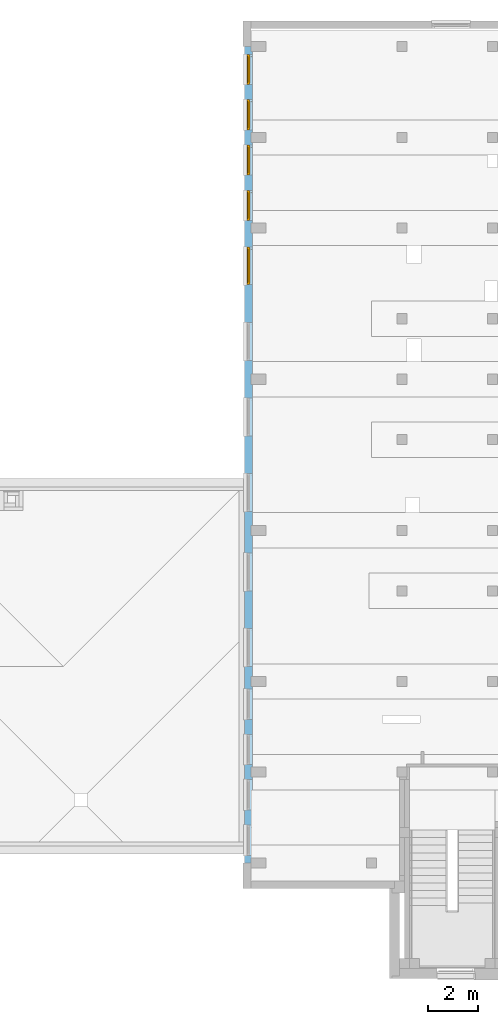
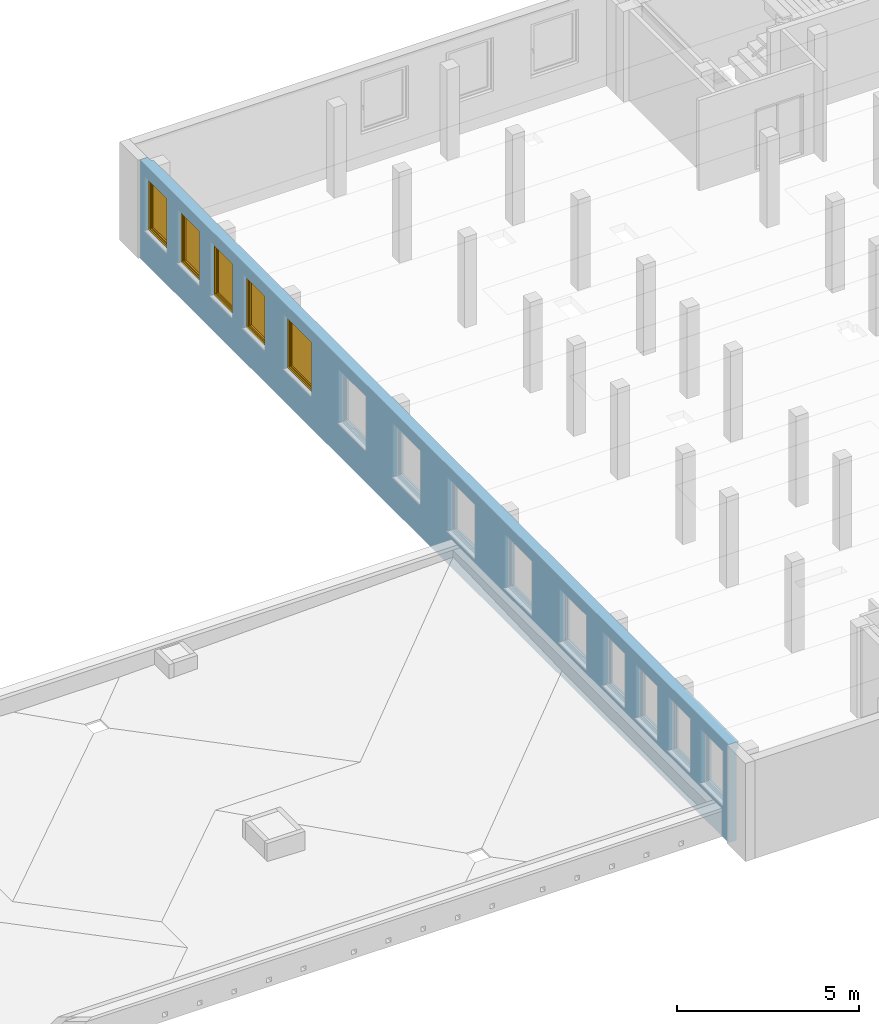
# One storey, part 10 of 27: 5 windows, 14 openings, plus 1 element that does not belong to this part.
"""IFC4 building model written with IfcOpenShell, lengths in metres."""

from ifc_helpers import new_model, entity, si_unit, converted_unit, derived_unit, frame, origin, origin_with_axes, place, context, subcontext, project, spatial, polyline, outline, extrude, clip, bounded_halfspace, closed_shell, open_shell, surface_model, source, transform, mapped, material, layer, layer_set, layer_usage, element, fill, save


model = new_model("IFC4")

# Units and contexts
model_context = context("Model", 3, precision=1e-05, world=origin())
body_context = subcontext(model_context, "Body", "Model", "MODEL_VIEW")
ifc_project = project(units=[si_unit("LENGTHUNIT", "METRE"), si_unit("AREAUNIT", "SQUARE_METRE"), si_unit("VOLUMEUNIT", "CUBIC_METRE"), si_unit("MASSUNIT", "GRAM", prefix="KILO"), converted_unit("PLANEANGLEUNIT", "DEGREE", entity("IfcPlaneAngleMeasure", 0.0174532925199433), si_unit("PLANEANGLEUNIT", "RADIAN"), dimensions=[0, 0, 0, 0, 0, 0, 0]), derived_unit("THERMALTRANSMITTANCEUNIT", [(si_unit("POWERUNIT", "WATT"), 1), (si_unit("THERMODYNAMICTEMPERATUREUNIT", "KELVIN"), -1), (si_unit("LENGTHUNIT", "METRE"), -2)]), derived_unit("VOLUMETRICFLOWRATEUNIT", [(si_unit("LENGTHUNIT", "METRE"), 3), (converted_unit("TIMEUNIT", "hour", entity("IfcTimeMeasure", 3600.0), si_unit("TIMEUNIT", "SECOND"), dimensions=[0, 0, 1, 0, 0, 0, 0]), -1), (si_unit("LENGTHUNIT", "METRE"), -1)])], contexts=[model_context])

# Site, building, storey
site_placement = place(None, origin())
site = spatial("IfcSite", under=ifc_project, at=site_placement, Name="3. ASŘ", CompositionType="ELEMENT")
building_placement = place(site_placement, origin())
building = spatial("IfcBuilding", under=site, at=building_placement, Name="Pavilon C", CompositionType="ELEMENT")
storey_placement = place(building_placement, frame((0.0, 0.0, 7.2)))
storey = spatial("IfcBuildingStorey", under=building, at=storey_placement, Name="Půdorys 3.NP", CompositionType="ELEMENT", Elevation=7.2)

# Wall, openings, windows
ifc_material = material(Name="ZELEZOBETONOVÁ KCE")
ifc_layer = layer(ifc_material, 0.32)
ifc_layer_set = layer_set([ifc_layer])
ifc_layer_usage = layer_usage(ifc_layer_set, "AXIS2", "POSITIVE", 0.0)
wall_placement = place(storey_placement, frame((24.5, 32.4, -0.1), z_axis=(0.0, 0.0, 1.0), x_axis=(-2.24566593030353e-16, -1.0, 0.0)))
wall = element("IfcWall", 1, at=wall_placement, inside=storey, material=ifc_layer_usage, Name="ZELEZOBETONOVÁ KCE", context=body_context, shape_type="Clipping", body=[
    clip(clip(clip(clip(clip(clip(clip(extrude(outline(polyline([(-32.4, 0.0), (-7.18613097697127e-17, -1.61376495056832e-32), (-7.18613097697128e-17, 0.32), (-32.2, 0.32), (-32.2, 0.25), (-32.4, 0.25), (-32.4, 0.0)])), frame((32.4, 0.0, 0.0), z_axis=(0.0, 0.0, 1.0), x_axis=(1.0, 0.0, 0.0)), (0.0, 0.0, 1.0), 3.3), bounded_halfspace(frame((7.2, 0.285000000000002, 3.05), z_axis=(0.0, 0.0, 1.0), x_axis=(2.24566593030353e-16, -1.0, 0.0)), True, origin_with_axes(), polyline([(7.0, 0.320000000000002), (7.0, 0.250000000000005), (7.4, 0.250000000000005), (7.4, 0.320000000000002), (7.0, 0.320000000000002)]))), bounded_halfspace(frame((3.6, 0.285000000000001, 3.05), z_axis=(0.0, 0.0, 1.0), x_axis=(2.24566593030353e-16, -1.0, 0.0)), True, origin_with_axes(), polyline([(3.4, 0.320000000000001), (3.4, 0.250000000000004), (3.8, 0.250000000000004), (3.8, 0.320000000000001), (3.4, 0.320000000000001)]))), bounded_halfspace(frame((19.2, 0.285000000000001, 3.05), z_axis=(0.0, 0.0, 1.0), x_axis=(2.24566593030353e-16, -1.0, 0.0)), True, origin_with_axes(), polyline([(19.0, 0.320000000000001), (19.0, 0.249999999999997), (19.4, 0.249999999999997), (19.4, 0.320000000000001), (19.0, 0.320000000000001)]))), bounded_halfspace(frame((25.2, 0.284999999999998, 3.05), z_axis=(0.0, 0.0, 1.0), x_axis=(2.24566593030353e-16, -1.0, 0.0)), True, origin_with_axes(), polyline([(25.0, 0.319999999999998), (25.0, 0.249999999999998), (25.4, 0.249999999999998), (25.4, 0.319999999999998), (25.0, 0.319999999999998)]))), bounded_halfspace(frame((28.8, 0.284999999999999, 3.05), z_axis=(0.0, 0.0, 1.0), x_axis=(2.24566593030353e-16, -1.0, 0.0)), True, origin_with_axes(), polyline([(28.6, 0.319999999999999), (28.6, 0.249999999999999), (29.0, 0.249999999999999), (29.0, 0.319999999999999), (28.6, 0.319999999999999)]))), bounded_halfspace(frame((32.3, 0.285, 3.05), z_axis=(0.0, 0.0, 1.0), x_axis=(2.24566593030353e-16, -1.0, 0.0)), True, origin_with_axes(), polyline([(32.2, 0.32), (32.2, 0.25), (32.4, 0.25), (32.4, 0.32), (32.2, 0.32)]))), bounded_halfspace(frame((13.2, 0.285000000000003, 3.05), z_axis=(0.0, 0.0, 1.0), x_axis=(2.24566593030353e-16, -1.0, 0.0)), True, origin_with_axes(), polyline([(13.0, 0.319999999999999), (13.0, 0.250000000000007), (13.4, 0.250000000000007), (13.4, 0.319999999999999), (13.0, 0.319999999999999)]))),
])
opening_1_placement = place(wall_placement, frame((25.5, -1.54950949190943e-15, 1.1), z_axis=(0.0, 1.0, 0.0), x_axis=(0.0, 0.0, 1.0)))
element("IfcOpeningElement", 2, at=opening_1_placement, cuts=wall, Name="Okenní otvor", ObjectType="Opening", context=body_context, shape_type="SweptSolid", body=[
    extrude(outline(polyline([(0.0, 1.2), (1.8, 1.2), (1.8, 0.0), (0.0, 0.0), (0.0, 1.2)])), origin_with_axes(), (0.0, 0.0, 1.0), 0.32),
])
opening_2_placement = place(wall_placement, frame((27.3, -1.1452896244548e-15, 1.1), z_axis=(0.0, 1.0, 0.0), x_axis=(0.0, 0.0, 1.0)))
element("IfcOpeningElement", 3, at=opening_2_placement, cuts=wall, Name="Okenní otvor", ObjectType="Opening", context=body_context, shape_type="SweptSolid", body=[
    extrude(outline(polyline([(0.0, 1.2), (1.8, 1.2), (1.8, 0.0), (0.0, 0.0), (0.0, 1.2)])), origin_with_axes(), (0.0, 0.0, 1.0), 0.32),
])
opening_3_placement = place(wall_placement, frame((29.1, -7.41069757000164e-16, 1.1), z_axis=(0.0, 1.0, 0.0), x_axis=(0.0, 0.0, 1.0)))
element("IfcOpeningElement", 4, at=opening_3_placement, cuts=wall, Name="Okenní otvor", ObjectType="Opening", context=body_context, shape_type="SweptSolid", body=[
    extrude(outline(polyline([(0.0, 1.2), (1.8, 1.2), (1.8, 0.0), (0.0, 0.0), (0.0, 1.2)])), origin_with_axes(), (0.0, 0.0, 1.0), 0.32),
])
opening_4_placement = place(wall_placement, frame((30.9, -3.36849889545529e-16, 1.1), z_axis=(0.0, 1.0, 0.0), x_axis=(0.0, 0.0, 1.0)))
element("IfcOpeningElement", 5, at=opening_4_placement, cuts=wall, Name="Okenní otvor", ObjectType="Opening", context=body_context, shape_type="SweptSolid", body=[
    extrude(outline(polyline([(0.0, 1.2), (1.8, 1.2), (1.8, 0.0), (0.0, 0.0), (0.0, 1.2)])), origin_with_axes(), (0.0, 0.0, 1.0), 0.32),
])
opening_5_placement = place(wall_placement, frame((13.95, -5.05274834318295e-16, 1.1), z_axis=(0.0, 1.0, 0.0), x_axis=(0.0, 0.0, 1.0)))
element("IfcOpeningElement", 6, at=opening_5_placement, cuts=wall, Name="Okenní otvor", ObjectType="Opening", context=body_context, shape_type="SweptSolid", body=[
    extrude(outline(polyline([(0.0, 1.5), (1.8, 1.5), (1.8, 0.0), (0.0, 0.0), (0.0, 1.5)])), origin_with_axes(), (0.0, 0.0, 1.0), 0.32),
])
opening_6_placement = place(wall_placement, frame((10.95, -1.17897461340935e-15, 1.1), z_axis=(0.0, 1.0, 0.0), x_axis=(0.0, 0.0, 1.0)))
element("IfcOpeningElement", 7, at=opening_6_placement, cuts=wall, Name="Okenní otvor", ObjectType="Opening", context=body_context, shape_type="SweptSolid", body=[
    extrude(outline(polyline([(0.0, 1.5), (1.8, 1.5), (1.8, 0.0), (0.0, 0.0), (0.0, 1.5)])), origin_with_axes(), (0.0, 0.0, 1.0), 0.32),
])
opening_7_placement = place(wall_placement, frame((16.95, 1.68424944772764e-16, 1.1), z_axis=(0.0, 1.0, 0.0), x_axis=(0.0, 0.0, 1.0)))
element("IfcOpeningElement", 8, at=opening_7_placement, cuts=wall, Name="Okenní otvor", ObjectType="Opening", context=body_context, shape_type="SweptSolid", body=[
    extrude(outline(polyline([(0.0, 1.5), (1.8, 1.5), (1.8, 0.0), (0.0, 0.0), (0.0, 1.5)])), origin_with_axes(), (0.0, 0.0, 1.0), 0.32),
])
opening_8_placement = place(wall_placement, frame((20.1, 8.75809712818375e-16, 1.1), z_axis=(0.0, 1.0, 0.0), x_axis=(0.0, 0.0, 1.0)))
element("IfcOpeningElement", 9, at=opening_8_placement, cuts=wall, Name="Okenní otvor", ObjectType="Opening", context=body_context, shape_type="SweptSolid", body=[
    extrude(outline(polyline([(0.0, 1.5), (1.8, 1.5), (1.8, 0.0), (0.0, 0.0), (0.0, 1.5)])), origin_with_axes(), (0.0, 0.0, 1.0), 0.32),
])
opening_9_placement = place(wall_placement, frame((23.1, -2.08846931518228e-15, 1.1), z_axis=(0.0, 1.0, 0.0), x_axis=(0.0, 0.0, 1.0)))
element("IfcOpeningElement", 10, at=opening_9_placement, cuts=wall, Name="Okenní otvor", ObjectType="Opening", context=body_context, shape_type="SweptSolid", body=[
    extrude(outline(polyline([(0.0, 1.5), (1.8, 1.5), (1.8, 0.0), (0.0, 0.0), (0.0, 1.5)])), origin_with_axes(), (0.0, 0.0, 1.0), 0.320000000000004),
])
opening_10_placement = place(wall_placement, frame((7.95, -1.85267439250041e-15, 1.1), z_axis=(0.0, 1.0, 0.0), x_axis=(0.0, 0.0, 1.0)))
opening_10 = element("IfcOpeningElement", 11, at=opening_10_placement, cuts=wall, Name="Okenní otvor", ObjectType="Opening", context=body_context, shape_type="SweptSolid", body=[
    extrude(outline(polyline([(0.0, 1.5), (1.8, 1.5), (1.8, 0.0), (0.0, 0.0), (0.0, 1.5)])), origin_with_axes(), (0.0, 0.0, 1.0), 0.320000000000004),
])
opening_11_placement = place(wall_placement, frame((2.10000000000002, 4.71589845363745e-16, 1.1), z_axis=(0.0, 1.0, 0.0), x_axis=(0.0, 0.0, 1.0)))
opening_11 = element("IfcOpeningElement", 12, at=opening_11_placement, cuts=wall, Name="Okenní otvor", ObjectType="Opening", context=body_context, shape_type="SweptSolid", body=[
    extrude(outline(polyline([(0.0, 1.2), (1.8, 1.2), (1.8, 0.0), (0.0, 0.0), (0.0, 1.2)])), origin_with_axes(), (0.0, 0.0, 1.0), 0.32),
])
opening_12_placement = place(wall_placement, frame((3.90000000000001, 8.75809712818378e-16, 1.1), z_axis=(0.0, 1.0, 0.0), x_axis=(0.0, 0.0, 1.0)))
opening_12 = element("IfcOpeningElement", 13, at=opening_12_placement, cuts=wall, Name="Okenní otvor", ObjectType="Opening", context=body_context, shape_type="SweptSolid", body=[
    extrude(outline(polyline([(0.0, 1.2), (1.8, 1.2), (1.8, 0.0), (0.0, 0.0), (0.0, 1.2)])), origin_with_axes(), (0.0, 0.0, 1.0), 0.32),
])
opening_13_placement = place(wall_placement, frame((5.7, 1.28002958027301e-15, 1.1), z_axis=(0.0, 1.0, 0.0), x_axis=(0.0, 0.0, 1.0)))
opening_13 = element("IfcOpeningElement", 14, at=opening_13_placement, cuts=wall, Name="Okenní otvor", ObjectType="Opening", context=body_context, shape_type="SweptSolid", body=[
    extrude(outline(polyline([(0.0, 1.2), (1.8, 1.2), (1.8, 0.0), (0.0, 0.0), (0.0, 1.2)])), origin_with_axes(), (0.0, 0.0, 1.0), 0.32),
])
opening_14_placement = place(wall_placement, frame((0.300000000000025, 6.73699779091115e-17, 1.1), z_axis=(-1.77635683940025e-16, 1.0, 0.0), x_axis=(0.0, 0.0, 1.0)))
opening_14 = element("IfcOpeningElement", 15, at=opening_14_placement, cuts=wall, Name="Okenní otvor", ObjectType="Opening", context=body_context, shape_type="SweptSolid", body=[
    extrude(outline(polyline([(0.0, 1.2), (1.8, 1.2), (1.8, 0.0), (0.0, 0.0), (0.0, 1.2)])), origin_with_axes(), (0.0, 0.0, 1.0), 0.32),
])
shared_shape_1 = source(origin_with_axes(), body_context, "Body", "SurfaceModel", [
    surface_model("IfcShellBasedSurfaceModel", [(0.0, 0.182, 1.8), (0.0, 0.182, -5.63337527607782e-18), (0.08, 0.182, -5.63337527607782e-18), (0.08, 0.182, 1.8), (0.0, 0.0899999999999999, 5.63337527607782e-18), (0.0, 0.0900000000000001, 1.8), (0.08, 0.0900000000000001, 1.8), (0.08, 0.0899999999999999, 5.63337527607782e-18)], [closed_shell([[[0, 1, 2, 3]], [[4, 5, 6, 7]], [[1, 0, 5, 4]], [[2, 1, 4, 7]], [[3, 2, 7, 6]], [[0, 3, 6, 5]]], orient=[[False], [False], [False], [False], [False], [False]])]),
    surface_model("IfcShellBasedSurfaceModel", [(1.12, 0.182, 1.8), (1.12, 0.182, -5.63337527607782e-18), (1.2, 0.182, -5.63337527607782e-18), (1.2, 0.182, 1.8), (1.12, 0.0899999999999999, 5.63337527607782e-18), (1.12, 0.0900000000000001, 1.8), (1.2, 0.0900000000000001, 1.8), (1.2, 0.0899999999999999, 5.63337527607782e-18)], [closed_shell([[[0, 1, 2, 3]], [[4, 5, 6, 7]], [[1, 0, 5, 4]], [[2, 1, 4, 7]], [[3, 2, 7, 6]], [[0, 3, 6, 5]]], orient=[[False], [False], [False], [False], [False], [False]])]),
    surface_model("IfcShellBasedSurfaceModel", [(0.08, 0.182, 0.08), (0.08, 0.182, -5.63337527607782e-18), (1.12, 0.182, -5.63337527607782e-18), (1.12, 0.182, 0.08), (0.08, 0.0899999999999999, 5.63337527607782e-18), (0.08, 0.0899999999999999, 0.08), (1.12, 0.0899999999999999, 0.08), (1.12, 0.0899999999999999, 5.63337527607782e-18)], [closed_shell([[[0, 1, 2, 3]], [[4, 5, 6, 7]], [[1, 0, 5, 4]], [[2, 1, 4, 7]], [[3, 2, 7, 6]], [[0, 3, 6, 5]]], orient=[[False], [False], [False], [False], [False], [False]])]),
    surface_model("IfcShellBasedSurfaceModel", [(0.08, 0.182, 1.8), (0.08, 0.182, 1.72), (1.12, 0.182, 1.72), (1.12, 0.182, 1.8), (0.08, 0.0900000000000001, 1.72), (0.08, 0.0900000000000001, 1.8), (1.12, 0.0900000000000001, 1.8), (1.12, 0.0900000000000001, 1.72)], [closed_shell([[[0, 1, 2, 3]], [[4, 5, 6, 7]], [[1, 0, 5, 4]], [[2, 1, 4, 7]], [[3, 2, 7, 6]], [[0, 3, 6, 5]]], orient=[[False], [False], [False], [False], [False], [False]])]),
    surface_model("IfcShellBasedSurfaceModel", [(0.05, 0.145, 1.75), (0.05, 0.145, 0.05), (0.13, 0.145, 0.05), (0.13, 0.145, 1.75), (0.05, 0.0599999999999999, 0.05), (0.05, 0.0600000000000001, 1.75), (0.13, 0.0600000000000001, 1.75), (0.13, 0.0599999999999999, 0.05)], [closed_shell([[[0, 1, 2, 3]], [[4, 5, 6, 7]], [[1, 0, 5, 4]], [[2, 1, 4, 7]], [[3, 2, 7, 6]], [[0, 3, 6, 5]]], orient=[[False], [False], [False], [False], [False], [False]])]),
    surface_model("IfcShellBasedSurfaceModel", [(1.07, 0.145, 1.75), (1.07, 0.145, 0.05), (1.15, 0.145, 0.05), (1.15, 0.145, 1.75), (1.07, 0.0599999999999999, 0.05), (1.07, 0.0600000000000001, 1.75), (1.15, 0.0600000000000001, 1.75), (1.15, 0.0599999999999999, 0.05)], [closed_shell([[[0, 1, 2, 3]], [[4, 5, 6, 7]], [[1, 0, 5, 4]], [[2, 1, 4, 7]], [[3, 2, 7, 6]], [[0, 3, 6, 5]]], orient=[[False], [False], [False], [False], [False], [False]])]),
    surface_model("IfcShellBasedSurfaceModel", [(0.13, 0.145, 0.13), (0.13, 0.145, 0.05), (1.07, 0.145, 0.05), (1.07, 0.145, 0.13), (0.13, 0.0599999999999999, 0.05), (0.13, 0.0599999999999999, 0.13), (1.07, 0.0599999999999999, 0.13), (1.07, 0.0599999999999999, 0.05)], [closed_shell([[[0, 1, 2, 3]], [[4, 5, 6, 7]], [[1, 0, 5, 4]], [[2, 1, 4, 7]], [[3, 2, 7, 6]], [[0, 3, 6, 5]]], orient=[[False], [False], [False], [False], [False], [False]])]),
    surface_model("IfcShellBasedSurfaceModel", [(0.13, 0.145, 1.75), (0.13, 0.145, 1.67), (1.07, 0.145, 1.67), (1.07, 0.145, 1.75), (0.13, 0.0600000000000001, 1.67), (0.13, 0.0600000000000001, 1.75), (1.07, 0.0600000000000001, 1.75), (1.07, 0.0600000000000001, 1.67)], [closed_shell([[[0, 1, 2, 3]], [[4, 5, 6, 7]], [[1, 0, 5, 4]], [[2, 1, 4, 7]], [[3, 2, 7, 6]], [[0, 3, 6, 5]]], orient=[[False], [False], [False], [False], [False], [False]])]),
    surface_model("IfcShellBasedSurfaceModel", [(1.0975, 0.06, 0.92), (1.0975, 0.06, 0.88), (1.1225, 0.06, 0.88), (1.1225, 0.06, 0.92), (1.0975, 0.05, 0.88), (1.0975, 0.05, 0.92), (1.1225, 0.05, 0.92), (1.1225, 0.05, 0.88)], [closed_shell([[[0, 1, 2, 3]], [[4, 5, 6, 7]], [[1, 0, 5, 4]], [[2, 1, 4, 7]], [[3, 2, 7, 6]], [[0, 3, 6, 5]]], orient=[[False], [False], [False], [False], [False], [False]])]),
    surface_model("IfcShellBasedSurfaceModel", [(1.12, 0.05, 0.9), (1.11866025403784, 0.05, 0.905), (1.115, 0.05, 0.908660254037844), (1.11, 0.05, 0.91), (1.105, 0.05, 0.908660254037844), (1.10133974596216, 0.05, 0.905), (1.1, 0.05, 0.9), (1.10133974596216, 0.05, 0.895), (1.105, 0.05, 0.891339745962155), (1.11, 0.05, 0.89), (1.115, 0.05, 0.891339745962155), (1.11866025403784, 0.05, 0.895), (1.12, 0.01, 0.9), (1.11866025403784, 0.00500000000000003, 0.905), (1.115, 0.00133974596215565, 0.908660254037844), (1.11, 2.8421709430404e-17, 0.91), (1.105, 0.00133974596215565, 0.908660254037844), (1.10133974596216, 0.00500000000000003, 0.905), (1.1, 0.01, 0.9), (1.10133974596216, 0.015, 0.895), (1.105, 0.0186602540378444, 0.891339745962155), (1.11, 0.02, 0.89), (1.115, 0.0186602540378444, 0.891339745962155), (1.11866025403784, 0.015, 0.895), (1.12, 0.01, 0.785), (1.11866025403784, 0.005, 0.785), (1.115, 0.00133974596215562, 0.785), (1.11, 0.0, 0.785), (1.105, 0.00133974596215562, 0.785), (1.10133974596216, 0.005, 0.785), (1.1, 0.01, 0.785), (1.10133974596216, 0.015, 0.785), (1.105, 0.0186602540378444, 0.785), (1.11, 0.02, 0.785), (1.115, 0.0186602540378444, 0.785), (1.11866025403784, 0.015, 0.785)], [open_shell([[[0, 1, 2, 3, 4, 5, 6, 7, 8, 9, 10, 11]], [[0, 12, 13, 1]], [[1, 13, 14, 2]], [[2, 14, 15, 3]], [[3, 15, 16, 4]], [[4, 16, 17, 5]], [[5, 17, 18, 6]], [[6, 18, 19, 7]], [[7, 19, 20, 8]], [[8, 20, 21, 9]], [[9, 21, 22, 10]], [[10, 22, 23, 11]], [[11, 23, 12, 0]], [[12, 24, 25, 13]], [[13, 25, 26, 14]], [[14, 26, 27, 15]], [[15, 27, 28, 16]], [[16, 28, 29, 17]], [[17, 29, 30, 18]], [[18, 30, 31, 19]], [[19, 31, 32, 20]], [[20, 32, 33, 21]], [[21, 33, 34, 22]], [[22, 34, 35, 23]], [[23, 35, 24, 12]]], orient=[[False], [False], [False], [False], [False], [False], [False], [False], [False], [False], [False], [False], [False], [False], [False], [False], [False], [False], [False], [False], [False], [False], [False], [False], [False]])]),
    surface_model("IfcShellBasedSurfaceModel", [(0.13, 0.1025, 0.13), (1.07, 0.1025, 0.13), (1.07, 0.1025, 1.67), (0.13, 0.1025, 1.67)], [open_shell([[[0, 1, 2, 3]]], orient=[[False]])]),
])
window_1_placement = place(opening_11_placement, frame((0.0, 1.20000000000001, 0.281999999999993), z_axis=(1.0, 0.0, 0.0), x_axis=(0.0, -1.0, -1.02101913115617e-16)))
window_1 = element("IfcWindow", 16, at=window_1_placement, inside=storey, Name="O06", OverallHeight=1.8, OverallWidth=1.2, PartitioningType="USERDEFINED", PredefinedType="WINDOW", context=body_context, shape_type="MappedRepresentation", body=[
    mapped(shared_shape_1, transform((0.0, 0.0, 0.0), x_axis=(1.0, 0.0, 0.0), y_axis=(0.0, 1.0, 0.0), z_axis=(0.0, 0.0, 1.0), scale=1.0)),
])
fill(opening_11, window_1)
window_2_placement = place(opening_12_placement, frame((0.0, 1.20000000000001, 0.281999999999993), z_axis=(1.0, 0.0, 0.0), x_axis=(0.0, -1.0, -1.02101913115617e-16)))
window_2 = element("IfcWindow", 17, at=window_2_placement, inside=storey, Name="O06", OverallHeight=1.8, OverallWidth=1.2, PartitioningType="USERDEFINED", PredefinedType="WINDOW", context=body_context, shape_type="MappedRepresentation", body=[
    mapped(shared_shape_1, transform((0.0, 0.0, 0.0), x_axis=(1.0, 0.0, 0.0), y_axis=(0.0, 1.0, 0.0), z_axis=(0.0, 0.0, 1.0), scale=1.0)),
])
fill(opening_12, window_2)
window_3_placement = place(opening_13_placement, frame((0.0, 1.20000000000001, 0.281999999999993), z_axis=(1.0, 0.0, 0.0), x_axis=(0.0, -1.0, -1.02101913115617e-16)))
window_3 = element("IfcWindow", 18, at=window_3_placement, inside=storey, Name="O06", OverallHeight=1.8, OverallWidth=1.2, PartitioningType="USERDEFINED", PredefinedType="WINDOW", context=body_context, shape_type="MappedRepresentation", body=[
    mapped(shared_shape_1, transform((0.0, 0.0, 0.0), x_axis=(1.0, 0.0, 0.0), y_axis=(0.0, 1.0, 0.0), z_axis=(0.0, 0.0, 1.0), scale=1.0)),
])
fill(opening_13, window_3)
window_4_placement = place(opening_14_placement, frame((0.0, 1.20000000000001, 0.281999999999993), z_axis=(1.0, 0.0, 0.0), x_axis=(0.0, -1.0, 7.55337708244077e-17)))
window_4 = element("IfcWindow", 19, at=window_4_placement, inside=storey, Name="O06", OverallHeight=1.8, OverallWidth=1.2, PartitioningType="USERDEFINED", PredefinedType="WINDOW", context=body_context, shape_type="MappedRepresentation", body=[
    mapped(shared_shape_1, transform((0.0, 0.0, 0.0), x_axis=(1.0, 0.0, 0.0), y_axis=(0.0, 1.0, 0.0), z_axis=(0.0, 0.0, 1.0), scale=1.0)),
])
fill(opening_14, window_4)
shared_shape_2 = source(origin_with_axes(), body_context, "Body", "SurfaceModel", [
    surface_model("IfcShellBasedSurfaceModel", [(0.0, 0.182, 1.8), (0.0, 0.182, -5.63337527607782e-18), (0.08, 0.182, -5.63337527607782e-18), (0.08, 0.182, 1.8), (0.0, 0.0899999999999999, 5.63337527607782e-18), (0.0, 0.0900000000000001, 1.8), (0.08, 0.0900000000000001, 1.8), (0.08, 0.0899999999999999, 5.63337527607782e-18)], [closed_shell([[[0, 1, 2, 3]], [[4, 5, 6, 7]], [[1, 0, 5, 4]], [[2, 1, 4, 7]], [[3, 2, 7, 6]], [[0, 3, 6, 5]]], orient=[[False], [False], [False], [False], [False], [False]])]),
    surface_model("IfcShellBasedSurfaceModel", [(1.42, 0.182, 1.8), (1.42, 0.182, -5.63337527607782e-18), (1.5, 0.182, -5.63337527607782e-18), (1.5, 0.182, 1.8), (1.42, 0.0899999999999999, 5.63337527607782e-18), (1.42, 0.0900000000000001, 1.8), (1.5, 0.0900000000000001, 1.8), (1.5, 0.0899999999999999, 5.63337527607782e-18)], [closed_shell([[[0, 1, 2, 3]], [[4, 5, 6, 7]], [[1, 0, 5, 4]], [[2, 1, 4, 7]], [[3, 2, 7, 6]], [[0, 3, 6, 5]]], orient=[[False], [False], [False], [False], [False], [False]])]),
    surface_model("IfcShellBasedSurfaceModel", [(0.08, 0.182, 0.08), (0.08, 0.182, -5.63337527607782e-18), (1.42, 0.182, -5.63337527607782e-18), (1.42, 0.182, 0.08), (0.08, 0.0899999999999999, 5.63337527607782e-18), (0.08, 0.0899999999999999, 0.08), (1.42, 0.0899999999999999, 0.08), (1.42, 0.0899999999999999, 5.63337527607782e-18)], [closed_shell([[[0, 1, 2, 3]], [[4, 5, 6, 7]], [[1, 0, 5, 4]], [[2, 1, 4, 7]], [[3, 2, 7, 6]], [[0, 3, 6, 5]]], orient=[[False], [False], [False], [False], [False], [False]])]),
    surface_model("IfcShellBasedSurfaceModel", [(0.08, 0.182, 1.8), (0.08, 0.182, 1.72), (1.42, 0.182, 1.72), (1.42, 0.182, 1.8), (0.08, 0.0900000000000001, 1.72), (0.08, 0.0900000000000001, 1.8), (1.42, 0.0900000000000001, 1.8), (1.42, 0.0900000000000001, 1.72)], [closed_shell([[[0, 1, 2, 3]], [[4, 5, 6, 7]], [[1, 0, 5, 4]], [[2, 1, 4, 7]], [[3, 2, 7, 6]], [[0, 3, 6, 5]]], orient=[[False], [False], [False], [False], [False], [False]])]),
    surface_model("IfcShellBasedSurfaceModel", [(0.05, 0.145, 1.75), (0.05, 0.145, 0.05), (0.13, 0.145, 0.05), (0.13, 0.145, 1.75), (0.05, 0.0599999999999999, 0.05), (0.05, 0.0600000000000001, 1.75), (0.13, 0.0600000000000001, 1.75), (0.13, 0.0599999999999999, 0.05)], [closed_shell([[[0, 1, 2, 3]], [[4, 5, 6, 7]], [[1, 0, 5, 4]], [[2, 1, 4, 7]], [[3, 2, 7, 6]], [[0, 3, 6, 5]]], orient=[[False], [False], [False], [False], [False], [False]])]),
    surface_model("IfcShellBasedSurfaceModel", [(1.37, 0.145, 1.75), (1.37, 0.145, 0.05), (1.45, 0.145, 0.05), (1.45, 0.145, 1.75), (1.37, 0.0599999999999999, 0.05), (1.37, 0.0600000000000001, 1.75), (1.45, 0.0600000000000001, 1.75), (1.45, 0.0599999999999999, 0.05)], [closed_shell([[[0, 1, 2, 3]], [[4, 5, 6, 7]], [[1, 0, 5, 4]], [[2, 1, 4, 7]], [[3, 2, 7, 6]], [[0, 3, 6, 5]]], orient=[[False], [False], [False], [False], [False], [False]])]),
    surface_model("IfcShellBasedSurfaceModel", [(0.13, 0.145, 0.13), (0.13, 0.145, 0.05), (1.37, 0.145, 0.05), (1.37, 0.145, 0.13), (0.13, 0.0599999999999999, 0.05), (0.13, 0.0599999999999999, 0.13), (1.37, 0.0599999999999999, 0.13), (1.37, 0.0599999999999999, 0.05)], [closed_shell([[[0, 1, 2, 3]], [[4, 5, 6, 7]], [[1, 0, 5, 4]], [[2, 1, 4, 7]], [[3, 2, 7, 6]], [[0, 3, 6, 5]]], orient=[[False], [False], [False], [False], [False], [False]])]),
    surface_model("IfcShellBasedSurfaceModel", [(0.13, 0.145, 1.75), (0.13, 0.145, 1.67), (1.37, 0.145, 1.67), (1.37, 0.145, 1.75), (0.13, 0.0600000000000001, 1.67), (0.13, 0.0600000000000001, 1.75), (1.37, 0.0600000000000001, 1.75), (1.37, 0.0600000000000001, 1.67)], [closed_shell([[[0, 1, 2, 3]], [[4, 5, 6, 7]], [[1, 0, 5, 4]], [[2, 1, 4, 7]], [[3, 2, 7, 6]], [[0, 3, 6, 5]]], orient=[[False], [False], [False], [False], [False], [False]])]),
    surface_model("IfcShellBasedSurfaceModel", [(1.3975, 0.06, 0.92), (1.3975, 0.06, 0.88), (1.4225, 0.06, 0.88), (1.4225, 0.06, 0.92), (1.3975, 0.05, 0.88), (1.3975, 0.05, 0.92), (1.4225, 0.05, 0.92), (1.4225, 0.05, 0.88)], [closed_shell([[[0, 1, 2, 3]], [[4, 5, 6, 7]], [[1, 0, 5, 4]], [[2, 1, 4, 7]], [[3, 2, 7, 6]], [[0, 3, 6, 5]]], orient=[[False], [False], [False], [False], [False], [False]])]),
    surface_model("IfcShellBasedSurfaceModel", [(1.42, 0.05, 0.9), (1.41866025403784, 0.05, 0.905), (1.415, 0.05, 0.908660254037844), (1.41, 0.05, 0.91), (1.405, 0.05, 0.908660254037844), (1.40133974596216, 0.05, 0.905), (1.4, 0.05, 0.9), (1.40133974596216, 0.05, 0.895), (1.405, 0.05, 0.891339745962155), (1.41, 0.05, 0.89), (1.415, 0.05, 0.891339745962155), (1.41866025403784, 0.05, 0.895), (1.42, 0.01, 0.9), (1.41866025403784, 0.00500000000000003, 0.905), (1.415, 0.00133974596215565, 0.908660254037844), (1.41, 2.8421709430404e-17, 0.91), (1.405, 0.00133974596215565, 0.908660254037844), (1.40133974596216, 0.00500000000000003, 0.905), (1.4, 0.01, 0.9), (1.40133974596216, 0.015, 0.895), (1.405, 0.0186602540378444, 0.891339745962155), (1.41, 0.02, 0.89), (1.415, 0.0186602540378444, 0.891339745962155), (1.41866025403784, 0.015, 0.895), (1.42, 0.01, 0.785), (1.41866025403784, 0.005, 0.785), (1.415, 0.00133974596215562, 0.785), (1.41, 0.0, 0.785), (1.405, 0.00133974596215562, 0.785), (1.40133974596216, 0.005, 0.785), (1.4, 0.01, 0.785), (1.40133974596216, 0.015, 0.785), (1.405, 0.0186602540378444, 0.785), (1.41, 0.02, 0.785), (1.415, 0.0186602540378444, 0.785), (1.41866025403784, 0.015, 0.785)], [open_shell([[[0, 1, 2, 3, 4, 5, 6, 7, 8, 9, 10, 11]], [[0, 12, 13, 1]], [[1, 13, 14, 2]], [[2, 14, 15, 3]], [[3, 15, 16, 4]], [[4, 16, 17, 5]], [[5, 17, 18, 6]], [[6, 18, 19, 7]], [[7, 19, 20, 8]], [[8, 20, 21, 9]], [[9, 21, 22, 10]], [[10, 22, 23, 11]], [[11, 23, 12, 0]], [[12, 24, 25, 13]], [[13, 25, 26, 14]], [[14, 26, 27, 15]], [[15, 27, 28, 16]], [[16, 28, 29, 17]], [[17, 29, 30, 18]], [[18, 30, 31, 19]], [[19, 31, 32, 20]], [[20, 32, 33, 21]], [[21, 33, 34, 22]], [[22, 34, 35, 23]], [[23, 35, 24, 12]]], orient=[[False], [False], [False], [False], [False], [False], [False], [False], [False], [False], [False], [False], [False], [False], [False], [False], [False], [False], [False], [False], [False], [False], [False], [False], [False]])]),
    surface_model("IfcShellBasedSurfaceModel", [(0.13, 0.1025, 0.13), (1.37, 0.1025, 0.13), (1.37, 0.1025, 1.67), (0.13, 0.1025, 1.67)], [open_shell([[[0, 1, 2, 3]]], orient=[[False]])]),
])
window_5_placement = place(opening_10_placement, frame((0.0, 1.50000000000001, 0.281999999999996), z_axis=(1.0, 0.0, 0.0), x_axis=(0.0, -1.0, -1.02101913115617e-16)))
window_5 = element("IfcWindow", 20, at=window_5_placement, inside=storey, Name="O06", OverallHeight=1.8, OverallWidth=1.5, PartitioningType="USERDEFINED", PredefinedType="WINDOW", context=body_context, shape_type="MappedRepresentation", body=[
    mapped(shared_shape_2, transform((0.0, 0.0, 0.0), x_axis=(1.0, 0.0, 0.0), y_axis=(0.0, 1.0, 0.0), z_axis=(0.0, 0.0, 1.0), scale=1.0)),
])
fill(opening_10, window_5)

save(model, "model.ifc")
